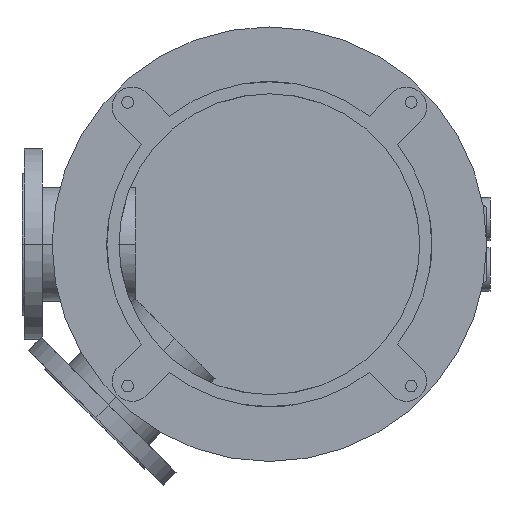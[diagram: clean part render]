
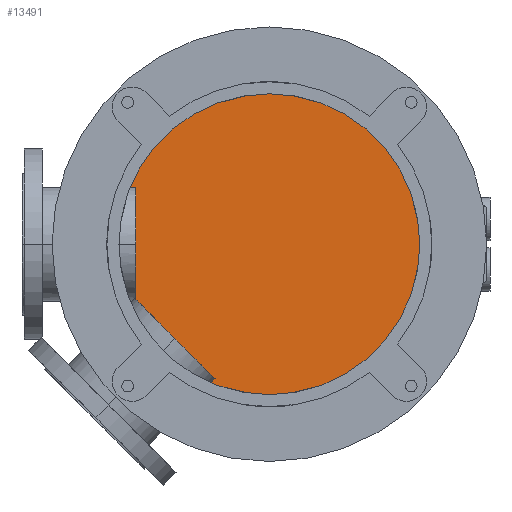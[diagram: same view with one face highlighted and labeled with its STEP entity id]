
A CAD part, front view. The second image highlights one B-rep face of the part: STEP entity #13491.
In plain terms, the highlighted planar face has unit normal (0, -1, 0).
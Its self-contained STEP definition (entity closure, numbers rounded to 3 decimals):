
#2814=CARTESIAN_POINT('',(0.,668.,0.));
#2815=DIRECTION('',(0.,-1.,0.));
#2816=DIRECTION('',(0.,0.,1.));
#2817=AXIS2_PLACEMENT_3D('',#2814,#2815,#2816);
#2989=CARTESIAN_POINT('',(0.,668.,0.));
#2990=DIRECTION('',(0.,-1.,0.));
#2991=DIRECTION('',(0.,0.,-1.));
#2992=AXIS2_PLACEMENT_3D('',#2989,#2990,#2991);
#8642=CARTESIAN_POINT('',(0.,668.,240.));
#8643=CARTESIAN_POINT('',(0.,668.,-240.));
#8644=VERTEX_POINT('',#8642);
#8645=VERTEX_POINT('',#8643);
#13481=CARTESIAN_POINT('',(0.,668.,0.));
#13482=DIRECTION('',(0.,1.,0.));
#13483=DIRECTION('',(0.,0.,-1.));
#13484=AXIS2_PLACEMENT_3D('',#13481,#13482,#13483);
#13485=PLANE('',#13484);
#13486=ORIENTED_EDGE('',*,*,#13459,.F.);
#13488=ORIENTED_EDGE('',*,*,#13487,.F.);
#13489=EDGE_LOOP('',(#13486,#13488));
#13490=FACE_OUTER_BOUND('',#13489,.F.);
#13491=ADVANCED_FACE('',(#13490),#13485,.F.);
#2818=CIRCLE('',#2817,240.);
#2993=CIRCLE('',#2992,240.);
#13459=EDGE_CURVE('',#8644,#8645,#2818,.T.);
#13487=EDGE_CURVE('',#8645,#8644,#2993,.T.);
